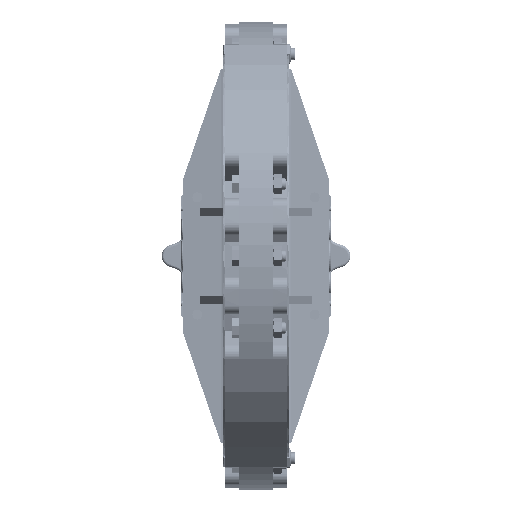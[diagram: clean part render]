
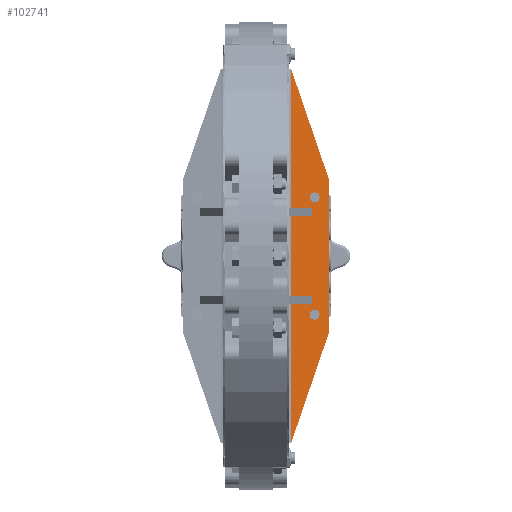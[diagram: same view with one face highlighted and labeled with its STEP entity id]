
A CAD part, front view. The second image highlights one B-rep face of the part: STEP entity #102741.
In plain terms, the highlighted planar face has unit normal (0.07, -0.998, 0).
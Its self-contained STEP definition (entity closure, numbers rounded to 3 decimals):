
#835=ELLIPSE('',#109558,8.668,8.647);
#836=ELLIPSE('',#109559,8.668,8.647);
#837=ELLIPSE('',#109560,8.668,8.647);
#838=ELLIPSE('',#109561,8.668,8.647);
#4997=LINE('',#152704,#12518);
#5001=LINE('',#152714,#12522);
#5240=LINE('',#153801,#12761);
#5241=LINE('',#153807,#12762);
#5246=LINE('',#153815,#12767);
#5259=LINE('',#153872,#12780);
#5260=LINE('',#153875,#12781);
#5304=LINE('',#154096,#12825);
#5305=LINE('',#154098,#12826);
#5306=LINE('',#154100,#12827);
#5307=LINE('',#154101,#12828);
#5308=LINE('',#154102,#12829);
#12518=VECTOR('',#121452,10.);
#12522=VECTOR('',#121458,10.);
#12761=VECTOR('',#122241,10.);
#12762=VECTOR('',#122246,10.);
#12767=VECTOR('',#122253,10.);
#12780=VECTOR('',#122286,10.);
#12781=VECTOR('',#122289,10.);
#12825=VECTOR('',#122499,10.);
#12826=VECTOR('',#122502,10.);
#12827=VECTOR('',#122503,10.);
#12828=VECTOR('',#122504,10.);
#12829=VECTOR('',#122505,10.);
#21342=FACE_BOUND('',#28953,.T.);
#21343=FACE_BOUND('',#28954,.T.);
#22802=FACE_OUTER_BOUND('',#28952,.T.);
#28952=EDGE_LOOP('',(#70233,#70234,#70235,#70236,#70237,#70238,#70239,#70240,
#70241,#70242,#70243,#70244));
#28953=EDGE_LOOP('',(#70245,#70246));
#28954=EDGE_LOOP('',(#70247,#70248));
#41908=VERTEX_POINT('',#152698);
#41910=VERTEX_POINT('',#152702);
#41914=VERTEX_POINT('',#152711);
#41915=VERTEX_POINT('',#152713);
#42310=VERTEX_POINT('',#153796);
#42311=VERTEX_POINT('',#153799);
#42313=VERTEX_POINT('',#153804);
#42314=VERTEX_POINT('',#153806);
#42330=VERTEX_POINT('',#153862);
#42334=VERTEX_POINT('',#153870);
#42335=VERTEX_POINT('',#153874);
#42402=VERTEX_POINT('',#154099);
#42403=VERTEX_POINT('',#154103);
#42404=VERTEX_POINT('',#154104);
#42405=VERTEX_POINT('',#154107);
#42406=VERTEX_POINT('',#154108);
#52661=EDGE_CURVE('',#41908,#41910,#4997,.T.);
#52665=EDGE_CURVE('',#41914,#41915,#5001,.F.);
#53141=EDGE_CURVE('',#42310,#42311,#5240,.T.);
#53143=EDGE_CURVE('',#42314,#42313,#5241,.T.);
#53148=EDGE_CURVE('',#42311,#42314,#5246,.T.);
#53170=EDGE_CURVE('',#42330,#42334,#5259,.T.);
#53171=EDGE_CURVE('',#42334,#42335,#5260,.T.);
#53272=EDGE_CURVE('',#41915,#42313,#5304,.T.);
#53273=EDGE_CURVE('',#42330,#41910,#5305,.T.);
#53274=EDGE_CURVE('',#42335,#42402,#5306,.T.);
#53275=EDGE_CURVE('',#42310,#42402,#5307,.T.);
#53276=EDGE_CURVE('',#41914,#41908,#5308,.T.);
#53277=EDGE_CURVE('',#42403,#42404,#835,.T.);
#53278=EDGE_CURVE('',#42404,#42403,#836,.T.);
#53279=EDGE_CURVE('',#42405,#42406,#837,.T.);
#53280=EDGE_CURVE('',#42406,#42405,#838,.T.);
#70233=ORIENTED_EDGE('',*,*,#53273,.F.);
#70234=ORIENTED_EDGE('',*,*,#53170,.T.);
#70235=ORIENTED_EDGE('',*,*,#53171,.T.);
#70236=ORIENTED_EDGE('',*,*,#53274,.T.);
#70237=ORIENTED_EDGE('',*,*,#53275,.F.);
#70238=ORIENTED_EDGE('',*,*,#53141,.T.);
#70239=ORIENTED_EDGE('',*,*,#53148,.T.);
#70240=ORIENTED_EDGE('',*,*,#53143,.T.);
#70241=ORIENTED_EDGE('',*,*,#53272,.F.);
#70242=ORIENTED_EDGE('',*,*,#52665,.F.);
#70243=ORIENTED_EDGE('',*,*,#53276,.T.);
#70244=ORIENTED_EDGE('',*,*,#52661,.T.);
#70245=ORIENTED_EDGE('',*,*,#53277,.T.);
#70246=ORIENTED_EDGE('',*,*,#53278,.T.);
#70247=ORIENTED_EDGE('',*,*,#53279,.T.);
#70248=ORIENTED_EDGE('',*,*,#53280,.T.);
#99723=PLANE('',#109557);
#102741=ADVANCED_FACE('',(#22802,#21342,#21343),#99723,.T.);
#109557=AXIS2_PLACEMENT_3D('',#154097,#122500,#122501);
#109558=AXIS2_PLACEMENT_3D('',#154105,#122506,#122507);
#109559=AXIS2_PLACEMENT_3D('',#154106,#122508,#122509);
#109560=AXIS2_PLACEMENT_3D('',#154109,#122510,#122511);
#109561=AXIS2_PLACEMENT_3D('',#154110,#122512,#122513);
#121452=DIRECTION('',(-0.324,-0.023,0.946));
#121458=DIRECTION('',(0.324,0.023,0.946));
#122241=DIRECTION('',(0.998,0.07,0.));
#122246=DIRECTION('',(-0.998,-0.07,0.));
#122253=DIRECTION('',(0.,0.,-1.));
#122286=DIRECTION('',(0.998,0.07,0.));
#122289=DIRECTION('',(0.,0.,-1.));
#122499=DIRECTION('',(0.,0.,1.));
#122500=DIRECTION('center_axis',(0.07,-0.998,
0.));
#122501=DIRECTION('ref_axis',(-0.998,-0.07,0.));
#122502=DIRECTION('',(0.,0.,1.));
#122503=DIRECTION('',(-0.998,-0.07,0.));
#122504=DIRECTION('',(0.,0.,1.));
#122505=DIRECTION('',(0.,0.,1.));
#122506=DIRECTION('center_axis',(-0.07,0.998,
0.));
#122507=DIRECTION('ref_axis',(-0.998,-0.07,0.));
#122508=DIRECTION('center_axis',(-0.07,0.998,
0.));
#122509=DIRECTION('ref_axis',(-0.998,-0.07,0.));
#122510=DIRECTION('center_axis',(-0.07,0.998,
0.));
#122511=DIRECTION('ref_axis',(-0.998,-0.07,0.));
#122512=DIRECTION('center_axis',(-0.07,0.998,
0.));
#122513=DIRECTION('ref_axis',(-0.998,-0.07,0.));
#152698=CARTESIAN_POINT('',(125.,543.,129.5));
#152702=CARTESIAN_POINT('',(60.605,538.497,317.732));
#152704=CARTESIAN_POINT('',(126.523,543.107,125.048));
#152711=CARTESIAN_POINT('',(125.,543.,-129.5));
#152713=CARTESIAN_POINT('',(60.605,538.497,-317.732));
#152714=CARTESIAN_POINT('',(126.523,543.107,-125.048));
#153796=CARTESIAN_POINT('',(60.605,538.497,-67.5));
#153799=CARTESIAN_POINT('',(94.782,540.887,-67.5));
#153801=CARTESIAN_POINT('',(58.5,538.35,-67.5));
#153804=CARTESIAN_POINT('',(60.605,538.497,-82.5));
#153806=CARTESIAN_POINT('',(94.782,540.887,-82.5));
#153807=CARTESIAN_POINT('',(58.5,538.35,-82.5));
#153815=CARTESIAN_POINT('',(94.782,540.887,-37.5));
#153862=CARTESIAN_POINT('',(60.605,538.497,82.5));
#153870=CARTESIAN_POINT('',(94.782,540.887,82.5));
#153872=CARTESIAN_POINT('',(58.5,538.35,82.5));
#153874=CARTESIAN_POINT('',(94.782,540.887,67.5));
#153875=CARTESIAN_POINT('',(94.782,540.887,37.5));
#154096=CARTESIAN_POINT('',(60.605,538.497,0.));
#154097=CARTESIAN_POINT('Origin',(83.5,540.098,0.));
#154098=CARTESIAN_POINT('',(60.605,538.497,0.));
#154099=CARTESIAN_POINT('',(60.605,538.497,67.5));
#154100=CARTESIAN_POINT('',(58.5,538.35,67.5));
#154101=CARTESIAN_POINT('',(60.605,538.497,0.));
#154102=CARTESIAN_POINT('',(125.,543.,319.5));
#154103=CARTESIAN_POINT('',(108.647,541.856,-100.));
#154104=CARTESIAN_POINT('',(100.,541.252,-91.353));
#154105=CARTESIAN_POINT('Origin',(100.,541.252,-100.));
#154106=CARTESIAN_POINT('Origin',(100.,541.252,-100.));
#154107=CARTESIAN_POINT('',(108.647,541.856,100.));
#154108=CARTESIAN_POINT('',(100.,541.252,108.647));
#154109=CARTESIAN_POINT('Origin',(100.,541.252,100.));
#154110=CARTESIAN_POINT('Origin',(100.,541.252,100.));
